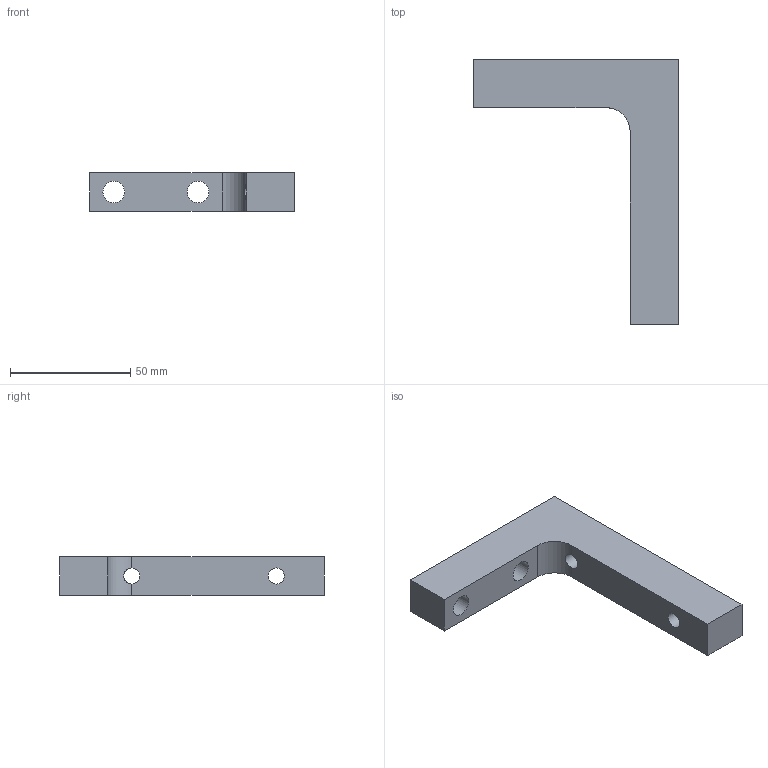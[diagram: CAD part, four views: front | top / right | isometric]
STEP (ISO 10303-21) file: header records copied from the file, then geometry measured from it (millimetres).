
FILE_DESCRIPTION(('STEP AP203'), '1');
FILE_NAME('眐珆1800.01.01.17.002 - 赶鎀鍧', '', ('UNSPECIFIED'), ('UNSPECIFIED'), 'C3D Converter', 'C3D Toolkit', '');
FILE_SCHEMA(('CONFIG_CONTROL_DESIGN'));
Length unit declared in the file: millimetre
Products named in the file (1): ТППФ1800.01.01.17.002
Bounding box: 85 x 110 x 16 mm (x, y, z)
Volume: 52346.2 mm3; surface area: 14757.4 mm2
Topology: 1 solids, 1 shells, 15 faces, 40 edges, 26 vertices
Faces by surface type: plane 8, cylinder 5, cone 2
Full cylindrical faces by diameter (mm): 6.647 x2, 9 x2
Entity records: 683 total; most frequent: CARTESIAN_POINT 147, DIRECTION 76, ORIENTED_EDGE 68, EDGE_CURVE 34, AXIS2_PLACEMENT_3D 28, EDGE_LOOP 28, VERTEX_POINT 26, LINE 20
